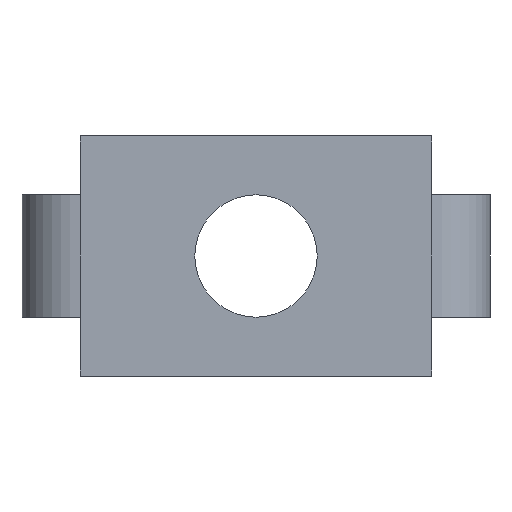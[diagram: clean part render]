
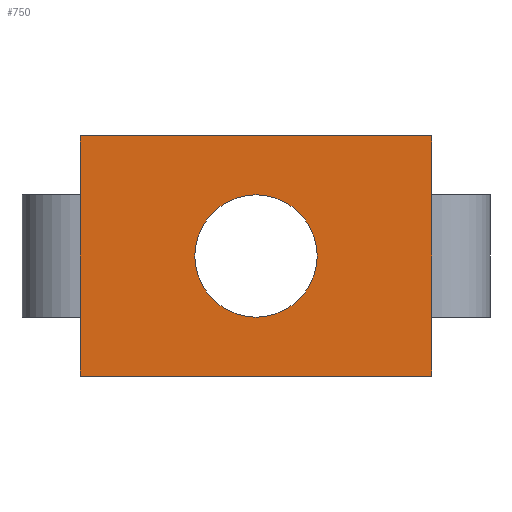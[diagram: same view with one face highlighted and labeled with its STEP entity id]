
A CAD part, front view. The second image highlights one B-rep face of the part: STEP entity #750.
In plain terms, the highlighted planar face has unit normal (0, -1, 0).
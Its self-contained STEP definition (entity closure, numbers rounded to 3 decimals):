
#1 = CARTESIAN_POINT ( 'NONE',  ( 11.5, -1.8, -4. ) ) ;
#5 = DIRECTION ( 'NONE',  ( 0., 0., 1. ) ) ;
#12 = VERTEX_POINT ( 'NONE', #763 ) ;
#13 = ORIENTED_EDGE ( 'NONE', *, *, #720, .F. ) ;
#16 = AXIS2_PLACEMENT_3D ( 'NONE', #193, #826, #374 ) ;
#28 = ORIENTED_EDGE ( 'NONE', *, *, #631, .F. ) ;
#37 = EDGE_CURVE ( 'NONE', #624, #161, #712, .T. ) ;
#40 = LINE ( 'NONE', #560, #708 ) ;
#56 = DIRECTION ( 'NONE',  ( 0., 0., -1. ) ) ;
#57 = ORIENTED_EDGE ( 'NONE', *, *, #285, .T. ) ;
#77 = VERTEX_POINT ( 'NONE', #766 ) ;
#101 = VERTEX_POINT ( 'NONE', #683 ) ;
#122 = CARTESIAN_POINT ( 'NONE',  ( 0., -1.8, 4. ) ) ;
#131 = EDGE_CURVE ( 'NONE', #161, #624, #625, .T. ) ;
#133 = VERTEX_POINT ( 'NONE', #831 ) ;
#146 = EDGE_CURVE ( 'NONE', #101, #77, #481, .T. ) ;
#155 = VERTEX_POINT ( 'NONE', #771 ) ;
#161 = VERTEX_POINT ( 'NONE', #582 ) ;
#164 = VECTOR ( 'NONE', #466, 1000. ) ;
#186 = CARTESIAN_POINT ( 'NONE',  ( -11.5, -1.8, 4. ) ) ;
#193 = CARTESIAN_POINT ( 'NONE',  ( 0., -1.8, 0. ) ) ;
#194 = CARTESIAN_POINT ( 'NONE',  ( 11.5, -1.8, 7.85 ) ) ;
#196 = EDGE_LOOP ( 'NONE', ( #223, #13, #28, #57, #399, #462, #303, #449 ) ) ;
#223 = ORIENTED_EDGE ( 'NONE', *, *, #507, .F. ) ;
#230 = VERTEX_POINT ( 'NONE', #382 ) ;
#244 = CARTESIAN_POINT ( 'NONE',  ( 11.5, -1.8, 7.85 ) ) ;
#285 = EDGE_CURVE ( 'NONE', #454, #155, #526, .T. ) ;
#293 = DIRECTION ( 'NONE',  ( 0., 0., 1. ) ) ;
#303 = ORIENTED_EDGE ( 'NONE', *, *, #429, .F. ) ;
#334 = VERTEX_POINT ( 'NONE', #349 ) ;
#339 = CARTESIAN_POINT ( 'NONE',  ( -11.5, -1.8, 7.85 ) ) ;
#346 = AXIS2_PLACEMENT_3D ( 'NONE', #431, #372, #823 ) ;
#347 = VECTOR ( 'NONE', #505, 1000. ) ;
#349 = CARTESIAN_POINT ( 'NONE',  ( 11.5, -1.8, -7.85 ) ) ;
#351 = VECTOR ( 'NONE', #5, 1000. ) ;
#353 = EDGE_LOOP ( 'NONE', ( #586, #736 ) ) ;
#360 = FACE_OUTER_BOUND ( 'NONE', #196, .T. ) ;
#372 = DIRECTION ( 'NONE',  ( 0., 1., 0. ) ) ;
#374 = DIRECTION ( 'NONE',  ( 0., 0., 1. ) ) ;
#382 = CARTESIAN_POINT ( 'NONE',  ( -11.5, -1.8, -4. ) ) ;
#389 = EDGE_CURVE ( 'NONE', #77, #155, #828, .T. ) ;
#399 = ORIENTED_EDGE ( 'NONE', *, *, #389, .F. ) ;
#401 = DIRECTION ( 'NONE',  ( 0., 0., -1. ) ) ;
#409 = VECTOR ( 'NONE', #56, 1000. ) ;
#429 = EDGE_CURVE ( 'NONE', #133, #101, #804, .T. ) ;
#431 = CARTESIAN_POINT ( 'NONE',  ( 0., -1.8, 0. ) ) ;
#449 = ORIENTED_EDGE ( 'NONE', *, *, #761, .T. ) ;
#454 = VERTEX_POINT ( 'NONE', #791 ) ;
#462 = ORIENTED_EDGE ( 'NONE', *, *, #146, .F. ) ;
#466 = DIRECTION ( 'NONE',  ( 0., 0., 1. ) ) ;
#481 = LINE ( 'NONE', #765, #785 ) ;
#505 = DIRECTION ( 'NONE',  ( 0., 0., -1. ) ) ;
#507 = EDGE_CURVE ( 'NONE', #12, #230, #726, .T. ) ;
#526 = LINE ( 'NONE', #1, #351 ) ;
#536 = FACE_BOUND ( 'NONE', #353, .T. ) ;
#560 = CARTESIAN_POINT ( 'NONE',  ( 11.5, -1.8, -7.85 ) ) ;
#582 = CARTESIAN_POINT ( 'NONE',  ( 0., -1.8, -4. ) ) ;
#586 = ORIENTED_EDGE ( 'NONE', *, *, #37, .T. ) ;
#621 = DIRECTION ( 'NONE',  ( -1., 0., 0. ) ) ;
#624 = VERTEX_POINT ( 'NONE', #122 ) ;
#625 = CIRCLE ( 'NONE', #651, 4. ) ;
#631 = EDGE_CURVE ( 'NONE', #454, #334, #743, .T. ) ;
#639 = DIRECTION ( 'NONE',  ( 1., 0., 0. ) ) ;
#651 = AXIS2_PLACEMENT_3D ( 'NONE', #753, #714, #701 ) ;
#658 = VECTOR ( 'NONE', #401, 1000. ) ;
#677 = CARTESIAN_POINT ( 'NONE',  ( -11.5, -1.8, 7.85 ) ) ;
#681 = LINE ( 'NONE', #186, #347 ) ;
#683 = CARTESIAN_POINT ( 'NONE',  ( -11.5, -1.8, 7.85 ) ) ;
#701 = DIRECTION ( 'NONE',  ( 0., 0., 1. ) ) ;
#708 = VECTOR ( 'NONE', #621, 1000. ) ;
#712 = CIRCLE ( 'NONE', #16, 4. ) ;
#714 = DIRECTION ( 'NONE',  ( 0., 1., 0. ) ) ;
#720 = EDGE_CURVE ( 'NONE', #334, #12, #40, .T. ) ;
#726 = LINE ( 'NONE', #677, #740 ) ;
#736 = ORIENTED_EDGE ( 'NONE', *, *, #131, .T. ) ;
#740 = VECTOR ( 'NONE', #293, 1000. ) ;
#743 = LINE ( 'NONE', #194, #409 ) ;
#750 = ADVANCED_FACE ( 'NONE', ( #536, #360 ), #752, .F. ) ;
#752 = PLANE ( 'NONE',  #346 ) ;
#753 = CARTESIAN_POINT ( 'NONE',  ( 0., -1.8, 0. ) ) ;
#761 = EDGE_CURVE ( 'NONE', #133, #230, #681, .T. ) ;
#763 = CARTESIAN_POINT ( 'NONE',  ( -11.5, -1.8, -7.85 ) ) ;
#765 = CARTESIAN_POINT ( 'NONE',  ( 11.5, -1.8, 7.85 ) ) ;
#766 = CARTESIAN_POINT ( 'NONE',  ( 11.5, -1.8, 7.85 ) ) ;
#771 = CARTESIAN_POINT ( 'NONE',  ( 11.5, -1.8, 4. ) ) ;
#785 = VECTOR ( 'NONE', #639, 1000. ) ;
#791 = CARTESIAN_POINT ( 'NONE',  ( 11.5, -1.8, -4. ) ) ;
#804 = LINE ( 'NONE', #339, #164 ) ;
#823 = DIRECTION ( 'NONE',  ( 0., 0., 1. ) ) ;
#826 = DIRECTION ( 'NONE',  ( 0., 1., 0. ) ) ;
#828 = LINE ( 'NONE', #244, #658 ) ;
#831 = CARTESIAN_POINT ( 'NONE',  ( -11.5, -1.8, 4. ) ) ;
